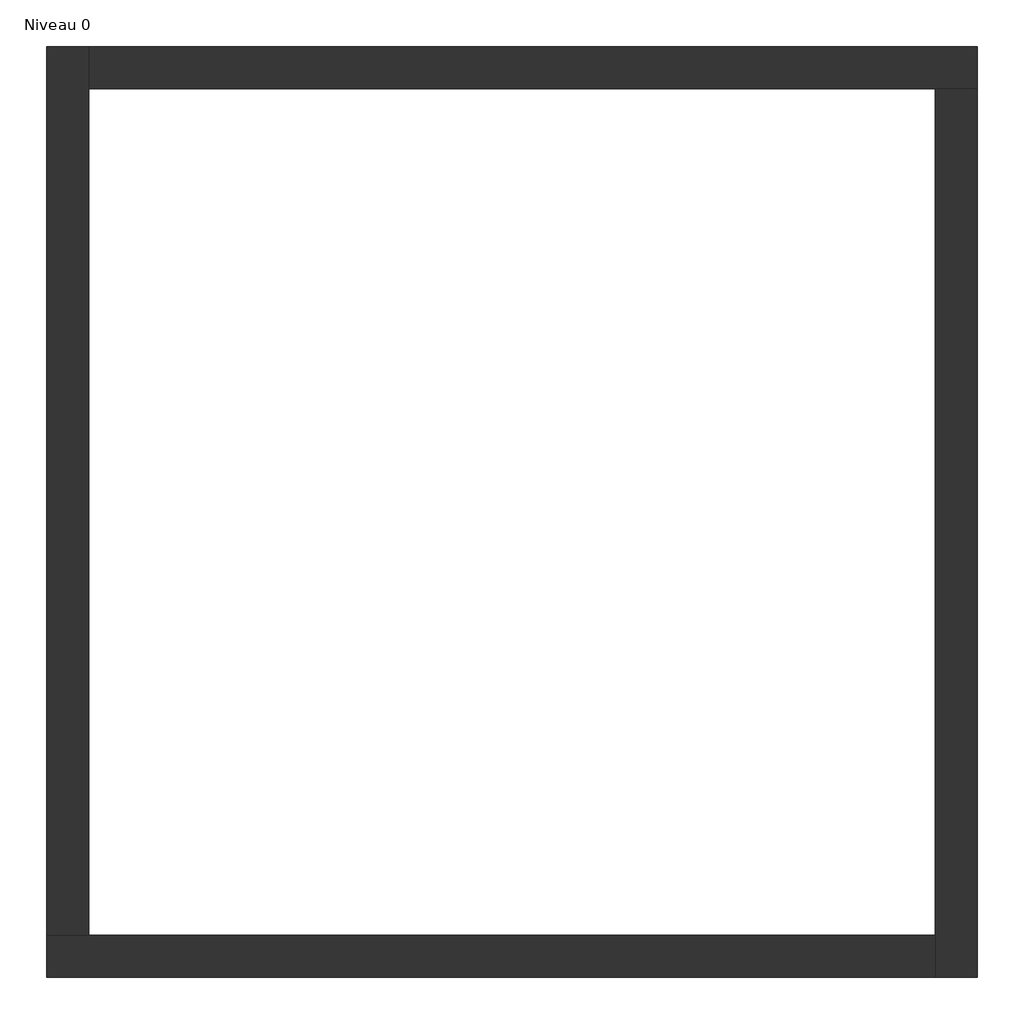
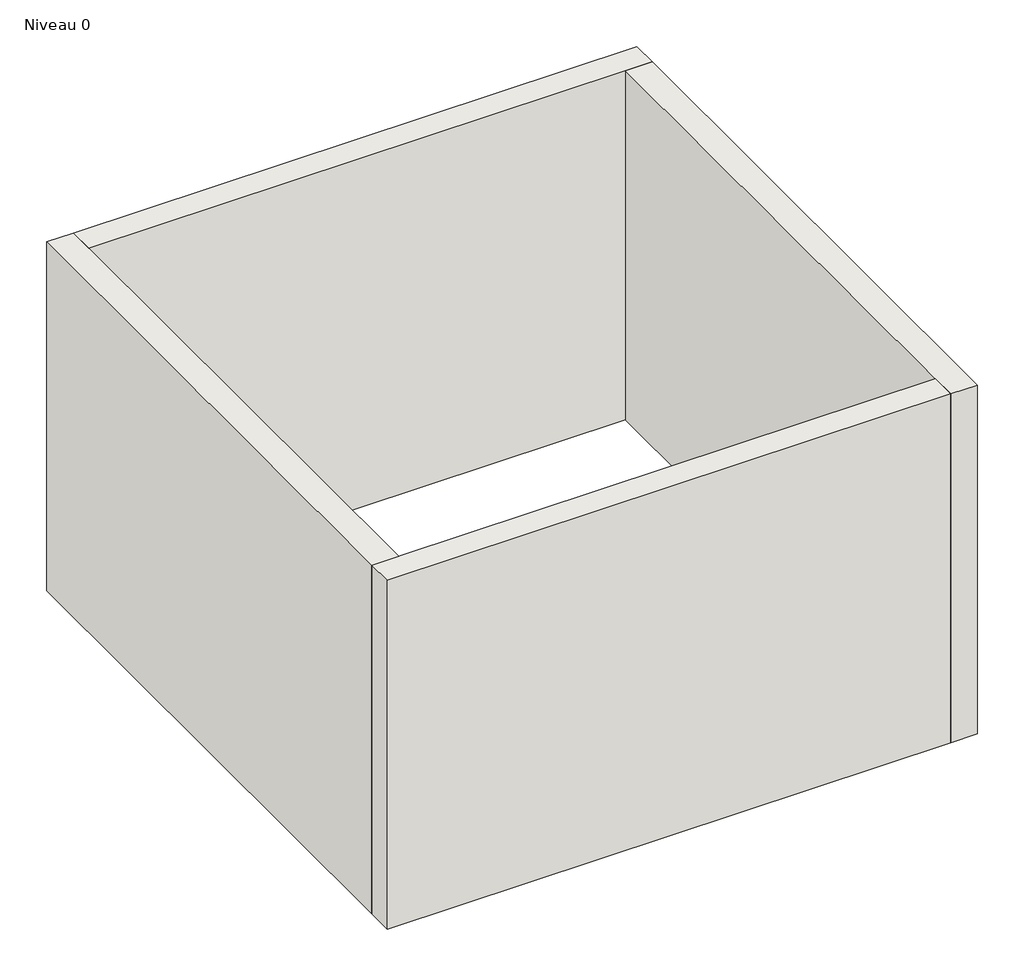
# One storey: 4 walls.
"""IFC4 building model written with IfcOpenShell, lengths in millimetres."""

from ifc_helpers import new_model, si_unit, origin, place, context, project, spatial, faceted_brep, element, save

model = new_model("IFC4")

# Units and contexts
model_context = context("Model", 3, world=origin())
ifc_project = project(units=[si_unit("LENGTHUNIT", "METRE", prefix="MILLI")], contexts=[model_context])

# Site, building, storey
site = spatial("IfcSite", under=ifc_project)
building = spatial("IfcBuilding", under=site)
storey = spatial("IfcBuildingStorey", under=building, Name="Niveau 0", Elevation=0.0)

# Walls
placement = place(None, origin())
element("IfcWall", 1, ObjectType="Générique - Ext. 200 mm", at=placement, inside=storey, context=model_context, shape_type="Brep", body=[
    faceted_brep([(-8626.0197103, -3414.2366435, 0.0), (-4426.0197103, -3414.2366435, 0.0), (-4426.0197103, -3414.2366435, 2750.0), (-8626.0197103, -3414.2366435, 2750.0), (-8626.0197103, -3214.2366435, 0.0), (-8626.0197103, -3214.2366435, 2750.0), (-8426.0197103, -3214.2366435, 2750.0), (-4426.0197103, -3214.2366435, 2750.0), (-4426.0197103, -3214.2366435, 0.0), (-8426.0197103, -3214.2366435, 0.0)], [[[0, 1, 2, 3]], [[4, 5, 6, 7, 8, 9]], [[1, 0, 4, 9, 8]], [[3, 2, 7, 6, 5]], [[0, 3, 5, 4]], [[2, 1, 8, 7]]]),
])
element("IfcWall", 2, ObjectType="Générique - Ext. 200 mm", at=placement, inside=storey, context=model_context, shape_type="Brep", body=[
    faceted_brep([(-8626.0197103, 985.7633565, 0.0), (-8626.0197103, -3214.2366435, 0.0), (-8626.0197103, -3214.2366435, 2750.0), (-8626.0197103, 985.7633565, 2750.0), (-8426.0197103, 985.7633565, 0.0), (-8426.0197103, 985.7633565, 2750.0), (-8426.0197103, 785.7633565, 2750.0), (-8426.0197103, -3214.2366435, 2750.0), (-8426.0197103, -3214.2366435, 0.0), (-8426.0197103, 785.7633565, 0.0)], [[[0, 1, 2, 3]], [[4, 5, 6, 7, 8, 9]], [[1, 0, 4, 9, 8]], [[3, 2, 7, 6, 5]], [[0, 3, 5, 4]], [[2, 1, 8, 7]]]),
])
element("IfcWall", 3, ObjectType="Générique - Ext. 200 mm", at=placement, inside=storey, context=model_context, shape_type="Brep", body=[
    faceted_brep([(-4226.0197103, 985.7633565, 0.0), (-8426.0197103, 985.7633565, 0.0), (-8426.0197103, 985.7633565, 2750.0), (-4226.0197103, 985.7633565, 2750.0), (-4226.0197103, 785.7633565, 0.0), (-4226.0197103, 785.7633565, 2750.0), (-4426.0197103, 785.7633565, 2750.0), (-8426.0197103, 785.7633565, 2750.0), (-8426.0197103, 785.7633565, 0.0), (-4426.0197103, 785.7633565, 0.0)], [[[0, 1, 2, 3]], [[4, 5, 6, 7, 8, 9]], [[1, 0, 4, 9, 8]], [[3, 2, 7, 6, 5]], [[0, 3, 5, 4]], [[2, 1, 8, 7]]]),
])
element("IfcWall", 4, ObjectType="Générique - Ext. 200 mm", at=placement, inside=storey, context=model_context, shape_type="Brep", body=[
    faceted_brep([(-4226.0197103, -3414.2366435, 0.0), (-4226.0197103, 785.7633565, 0.0), (-4226.0197103, 785.7633565, 2750.0), (-4226.0197103, -3414.2366435, 2750.0), (-4426.0197103, -3414.2366435, 0.0), (-4426.0197103, -3414.2366435, 2750.0), (-4426.0197103, -3214.2366435, 2750.0), (-4426.0197103, 785.7633565, 2750.0), (-4426.0197103, 785.7633565, 0.0), (-4426.0197103, -3214.2366435, 0.0)], [[[0, 1, 2, 3]], [[4, 5, 6, 7, 8, 9]], [[1, 0, 4, 9, 8]], [[3, 2, 7, 6, 5]], [[0, 3, 5, 4]], [[2, 1, 8, 7]]]),
])

save(model, "model.ifc")
